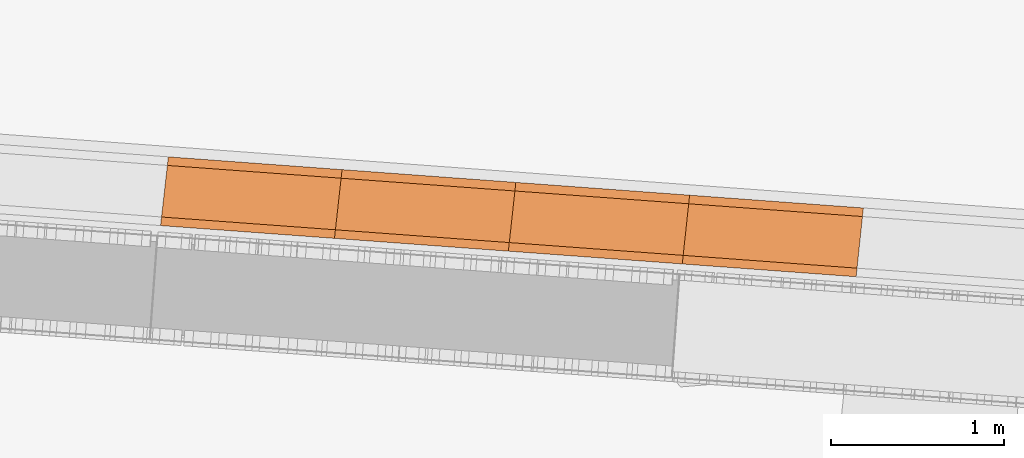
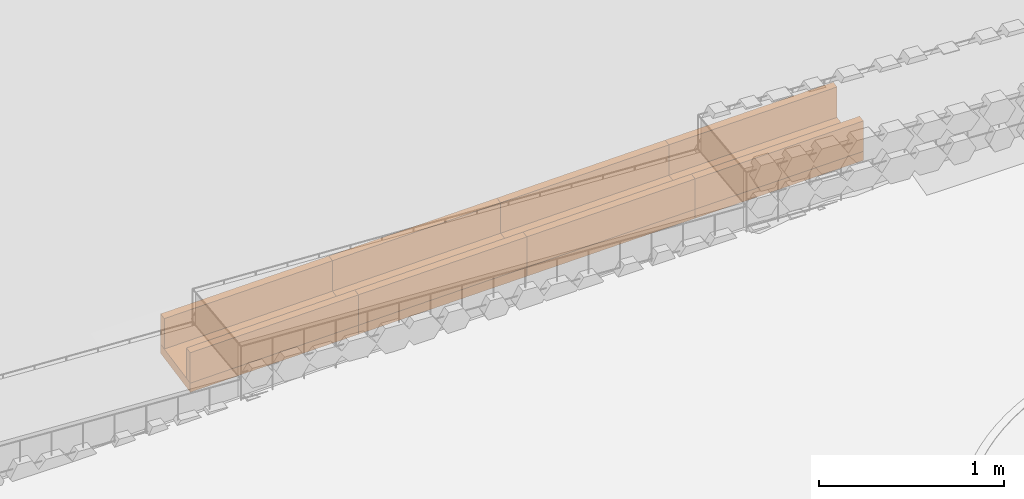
# Not in any storey, part 36 of 46: 12 proxies.
"""IFC4 model written with IfcOpenShell, lengths in metres."""

from ifc_helpers import new_model, si_unit, direction, frame, origin_with_axes, place, context, subcontext, project, spatial, polygons, material, element, save


model = new_model("IFC4")

# Units and contexts
model_context = context("Model", 3, precision=1e-05, world=origin_with_axes(), true_north=direction((0.0, 1.0)))
body_context = subcontext(model_context, "Body", "Model", "MODEL_VIEW")
ifc_project = project(units=[si_unit("VOLUMEUNIT", "CUBIC_METRE"), si_unit("LENGTHUNIT", "METRE"), si_unit("AREAUNIT", "SQUARE_METRE")], contexts=[model_context])

# Site
site_placement = place(None, origin_with_axes())
site = spatial("IfcSite", under=ifc_project, at=site_placement, Name="Lares · Rua das Mercês · artigo 4771")

# Proxies
ifc_material = material(Name="Caleiras · betão", Category="concrete")
proxy_1_placement = place(site_placement, frame((0.0, 0.0, 0.0), z_axis=(0.0, 0.0, 1.0), x_axis=(1.0, -1.03767253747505e-17, 0.0)))
element("IfcBuildingElementProxy", 1, at=proxy_1_placement, inside=site, material=ifc_material, Name="Acesso · canal lateral", ObjectType="Acesso · canal lateral", PredefinedType="USERDEFINED", context=body_context, shape_type="Tessellation", body=[
    polygons([(70.6886304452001, 0.973362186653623, 14.9747027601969), (70.733515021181, 1.37083592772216, 14.9747027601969), (71.7383507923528, 1.29694554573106, 15.0491608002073), (71.693466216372, 0.899471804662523, 15.0491608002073), (70.6886304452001, 0.973362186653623, 15.034702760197), (70.733515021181, 1.37083592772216, 15.034702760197), (71.7383507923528, 1.29694554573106, 15.1091608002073), (71.693466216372, 0.899471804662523, 15.1091608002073)], [[[4, 3, 2, 1]], [[5, 6, 7, 8]], [[1, 2, 6, 5]], [[2, 3, 7, 6]], [[3, 4, 8, 7]], [[4, 1, 5, 8]]]),
])
proxy_2_placement = place(site_placement, frame((0.0, 0.0, 0.0), z_axis=(0.0, 0.0, 1.0), x_axis=(1.0, -1.03767253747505e-17, 0.0)))
element("IfcBuildingElementProxy", 2, at=proxy_2_placement, inside=site, material=ifc_material, Name="Acesso · canal lateral", ObjectType="Acesso · canal lateral", PredefinedType="USERDEFINED", context=body_context, shape_type="Tessellation", body=[
    polygons([(70.6886304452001, 0.973362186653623, 15.034702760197), (70.6942410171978, 1.02304640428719, 15.034702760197), (71.6990767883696, 0.94915602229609, 15.1091608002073), (71.693466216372, 0.899471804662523, 15.1091608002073), (70.6886304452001, 0.973362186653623, 15.2347027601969), (70.6942410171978, 1.02304640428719, 15.2347027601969), (71.6990767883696, 0.94915602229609, 15.3091608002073), (71.693466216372, 0.899471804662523, 15.3091608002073)], [[[4, 3, 2, 1]], [[5, 6, 7, 8]], [[1, 2, 6, 5]], [[2, 3, 7, 6]], [[3, 4, 8, 7]], [[4, 1, 5, 8]]]),
])
proxy_3_placement = place(site_placement, frame((0.0, 0.0, 0.0), z_axis=(0.0, 0.0, 1.0), x_axis=(1.0, -1.03767253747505e-17, 0.0)))
element("IfcBuildingElementProxy", 3, at=proxy_3_placement, inside=site, material=ifc_material, Name="Acesso · canal lateral", ObjectType="Acesso · canal lateral", PredefinedType="USERDEFINED", context=body_context, shape_type="Tessellation", body=[
    polygons([(70.7279044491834, 1.32115171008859, 15.034702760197), (70.733515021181, 1.37083592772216, 15.034702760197), (71.7383507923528, 1.29694554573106, 15.1091608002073), (71.7327402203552, 1.24726132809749, 15.1091608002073), (70.7279044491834, 1.32115171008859, 15.2347027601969), (70.733515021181, 1.37083592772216, 15.2347027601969), (71.7383507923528, 1.29694554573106, 15.3091608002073), (71.7327402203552, 1.24726132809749, 15.3091608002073)], [[[4, 3, 2, 1]], [[5, 6, 7, 8]], [[1, 2, 6, 5]], [[2, 3, 7, 6]], [[3, 4, 8, 7]], [[4, 1, 5, 8]]]),
])
proxy_4_placement = place(site_placement, frame((0.0, 0.0, 0.0), z_axis=(0.0, 0.0, 1.0), x_axis=(1.0, -1.03767253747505e-17, 0.0)))
element("IfcBuildingElementProxy", 4, at=proxy_4_placement, inside=site, material=ifc_material, Name="Acesso · canal lateral", ObjectType="Acesso · canal lateral", PredefinedType="USERDEFINED", context=body_context, shape_type="Tessellation", body=[
    polygons([(71.693878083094, 0.89942572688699, 15.0491608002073), (71.7379389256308, 1.29699162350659, 15.0491608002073), (72.7427920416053, 1.22310042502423, 15.1236188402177), (72.6987311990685, 0.825534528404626, 15.1236188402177), (71.693878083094, 0.89942572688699, 15.1091608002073), (71.7379389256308, 1.29699162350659, 15.1091608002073), (72.7427920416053, 1.22310042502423, 15.1836188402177), (72.6987311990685, 0.825534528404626, 15.1836188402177)], [[[4, 3, 2, 1]], [[5, 6, 7, 8]], [[1, 2, 6, 5]], [[2, 3, 7, 6]], [[3, 4, 8, 7]], [[4, 1, 5, 8]]]),
])
proxy_5_placement = place(site_placement, frame((0.0, 0.0, 0.0), z_axis=(0.0, 0.0, 1.0), x_axis=(1.0, -1.03767253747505e-17, 0.0)))
element("IfcBuildingElementProxy", 5, at=proxy_5_placement, inside=site, material=ifc_material, Name="Acesso · canal lateral", ObjectType="Acesso · canal lateral", PredefinedType="USERDEFINED", context=body_context, shape_type="Tessellation", body=[
    polygons([(71.693878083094, 0.89942572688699, 15.1091608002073), (71.6993856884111, 0.949121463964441, 15.1091608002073), (72.7042388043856, 0.875230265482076, 15.1836188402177), (72.6987311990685, 0.825534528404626, 15.1836188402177), (71.693878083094, 0.89942572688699, 15.3091608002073), (71.6993856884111, 0.949121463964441, 15.3091608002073), (72.7042388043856, 0.875230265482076, 15.3836188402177), (72.6987311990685, 0.825534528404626, 15.3836188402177)], [[[4, 3, 2, 1]], [[5, 6, 7, 8]], [[1, 2, 6, 5]], [[2, 3, 7, 6]], [[3, 4, 8, 7]], [[4, 1, 5, 8]]]),
])
proxy_6_placement = place(site_placement, frame((0.0, 0.0, 0.0), z_axis=(0.0, 0.0, 1.0), x_axis=(1.0, -1.03767253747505e-17, 0.0)))
element("IfcBuildingElementProxy", 6, at=proxy_6_placement, inside=site, material=ifc_material, Name="Acesso · canal lateral", ObjectType="Acesso · canal lateral", PredefinedType="USERDEFINED", context=body_context, shape_type="Tessellation", body=[
    polygons([(71.7324313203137, 1.24729588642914, 15.1091608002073), (71.7379389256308, 1.29699162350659, 15.1091608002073), (72.7427920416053, 1.22310042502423, 15.1836188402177), (72.7372844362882, 1.17340468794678, 15.1836188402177), (71.7324313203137, 1.24729588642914, 15.3091608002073), (71.7379389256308, 1.29699162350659, 15.3091608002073), (72.7427920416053, 1.22310042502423, 15.3836188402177), (72.7372844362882, 1.17340468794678, 15.3836188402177)], [[[4, 3, 2, 1]], [[5, 6, 7, 8]], [[1, 2, 6, 5]], [[2, 3, 7, 6]], [[3, 4, 8, 7]], [[4, 1, 5, 8]]]),
])
proxy_7_placement = place(site_placement, frame((0.0, 0.0, 0.0), z_axis=(0.0, 0.0, 1.0), x_axis=(1.0, -1.03767253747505e-17, 0.0)))
element("IfcBuildingElementProxy", 7, at=proxy_7_placement, inside=site, material=ifc_material, Name="Acesso · canal lateral", ObjectType="Acesso · canal lateral", PredefinedType="USERDEFINED", context=body_context, shape_type="Tessellation", body=[
    polygons([(72.6991567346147, 0.825487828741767, 15.1236188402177), (72.7423665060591, 1.22314712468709, 15.1236188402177), (73.747237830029, 1.14925512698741, 15.198076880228), (73.7040280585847, 0.751595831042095, 15.198076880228), (72.6991567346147, 0.825487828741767, 15.1836188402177), (72.7423665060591, 1.22314712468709, 15.1836188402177), (73.747237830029, 1.14925512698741, 15.258076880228), (73.7040280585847, 0.751595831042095, 15.258076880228)], [[[4, 3, 2, 1]], [[5, 6, 7, 8]], [[1, 2, 6, 5]], [[2, 3, 7, 6]], [[3, 4, 8, 7]], [[4, 1, 5, 8]]]),
])
proxy_8_placement = place(site_placement, frame((0.0, 0.0, 0.0), z_axis=(0.0, 0.0, 1.0), x_axis=(1.0, -1.03767253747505e-17, 0.0)))
element("IfcBuildingElementProxy", 8, at=proxy_8_placement, inside=site, material=ifc_material, Name="Acesso · canal lateral", ObjectType="Acesso · canal lateral", PredefinedType="USERDEFINED", context=body_context, shape_type="Tessellation", body=[
    polygons([(72.6991567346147, 0.825487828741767, 15.1836188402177), (72.7045579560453, 0.875195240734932, 15.1836188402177), (73.7094292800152, 0.80130324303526, 15.258076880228), (73.7040280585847, 0.751595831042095, 15.258076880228), (72.6991567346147, 0.825487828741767, 15.3836188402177), (72.7045579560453, 0.875195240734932, 15.3836188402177), (73.7094292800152, 0.80130324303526, 15.458076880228), (73.7040280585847, 0.751595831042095, 15.458076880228)], [[[4, 3, 2, 1]], [[5, 6, 7, 8]], [[1, 2, 6, 5]], [[2, 3, 7, 6]], [[3, 4, 8, 7]], [[4, 1, 5, 8]]]),
])
proxy_9_placement = place(site_placement, frame((0.0, 0.0, 0.0), z_axis=(0.0, 0.0, 1.0), x_axis=(1.0, -1.03767253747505e-17, 0.0)))
element("IfcBuildingElementProxy", 9, at=proxy_9_placement, inside=site, material=ifc_material, Name="Acesso · canal lateral", ObjectType="Acesso · canal lateral", PredefinedType="USERDEFINED", context=body_context, shape_type="Tessellation", body=[
    polygons([(72.7369652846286, 1.17343971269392, 15.1836188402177), (72.7423665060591, 1.22314712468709, 15.1836188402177), (73.747237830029, 1.14925512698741, 15.258076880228), (73.7418366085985, 1.09954771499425, 15.258076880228), (72.7369652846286, 1.17343971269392, 15.3836188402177), (72.7423665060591, 1.22314712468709, 15.3836188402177), (73.747237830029, 1.14925512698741, 15.458076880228), (73.7418366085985, 1.09954771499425, 15.458076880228)], [[[4, 3, 2, 1]], [[5, 6, 7, 8]], [[1, 2, 6, 5]], [[2, 3, 7, 6]], [[3, 4, 8, 7]], [[4, 1, 5, 8]]]),
])
proxy_10_placement = place(site_placement, frame((0.0, 0.0, 0.0), z_axis=(0.0, 0.0, 1.0), x_axis=(1.0, -1.03767253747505e-17, 0.0)))
element("IfcBuildingElementProxy", 10, at=proxy_10_placement, inside=site, material=ifc_material, Name="Acesso · canal lateral", ObjectType="Acesso · canal lateral", PredefinedType="USERDEFINED", context=body_context, shape_type="Tessellation", body=[
    polygons([(73.7044679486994, 0.751548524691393, 15.198076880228), (73.7467979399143, 1.14930243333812, 15.198076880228), (74.7516883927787, 1.07540965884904, 15.2725349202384), (74.7093584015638, 0.677655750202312, 15.2725349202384), (73.7044679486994, 0.751548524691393, 15.258076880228), (73.7467979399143, 1.14930243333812, 15.258076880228), (74.7516883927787, 1.07540965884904, 15.3325349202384), (74.7093584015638, 0.677655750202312, 15.3325349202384)], [[[4, 3, 2, 1]], [[5, 6, 7, 8]], [[1, 2, 6, 5]], [[2, 3, 7, 6]], [[3, 4, 8, 7]], [[4, 1, 5, 8]]]),
])
proxy_11_placement = place(site_placement, frame((0.0, 0.0, 0.0), z_axis=(0.0, 0.0, 1.0), x_axis=(1.0, -1.03767253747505e-17, 0.0)))
element("IfcBuildingElementProxy", 11, at=proxy_11_placement, inside=site, material=ifc_material, Name="Acesso · canal lateral", ObjectType="Acesso · canal lateral", PredefinedType="USERDEFINED", context=body_context, shape_type="Tessellation", body=[
    polygons([(73.7044679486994, 0.751548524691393, 15.258076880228), (73.7097591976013, 0.801267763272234, 15.258076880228), (74.7146496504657, 0.727374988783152, 15.3325349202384), (74.7093584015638, 0.677655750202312, 15.3325349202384), (73.7044679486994, 0.751548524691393, 15.458076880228), (73.7097591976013, 0.801267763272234, 15.458076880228), (74.7146496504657, 0.727374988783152, 15.5325349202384), (74.7093584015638, 0.677655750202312, 15.5325349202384)], [[[4, 3, 2, 1]], [[5, 6, 7, 8]], [[1, 2, 6, 5]], [[2, 3, 7, 6]], [[3, 4, 8, 7]], [[4, 1, 5, 8]]]),
])
proxy_12_placement = place(site_placement, frame((0.0, 0.0, 0.0), z_axis=(0.0, 0.0, 1.0), x_axis=(1.0, -1.03767253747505e-17, 0.0)))
element("IfcBuildingElementProxy", 12, at=proxy_12_placement, inside=site, material=ifc_material, Name="Acesso · canal lateral", ObjectType="Acesso · canal lateral", PredefinedType="USERDEFINED", context=body_context, shape_type="Tessellation", body=[
    polygons([(73.7415066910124, 1.09958319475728, 15.258076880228), (73.7467979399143, 1.14930243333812, 15.258076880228), (74.7516883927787, 1.07540965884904, 15.3325349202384), (74.7463971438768, 1.02569042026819, 15.3325349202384), (73.7415066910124, 1.09958319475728, 15.458076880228), (73.7467979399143, 1.14930243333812, 15.458076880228), (74.7516883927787, 1.07540965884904, 15.5325349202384), (74.7463971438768, 1.02569042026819, 15.5325349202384)], [[[4, 3, 2, 1]], [[5, 6, 7, 8]], [[1, 2, 6, 5]], [[2, 3, 7, 6]], [[3, 4, 8, 7]], [[4, 1, 5, 8]]]),
])

save(model, "model.ifc")
